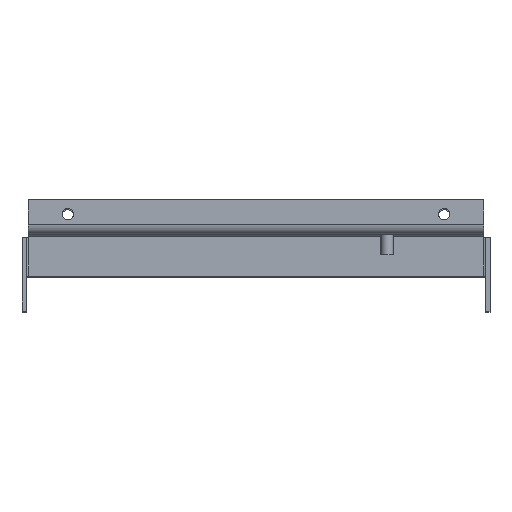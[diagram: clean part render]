
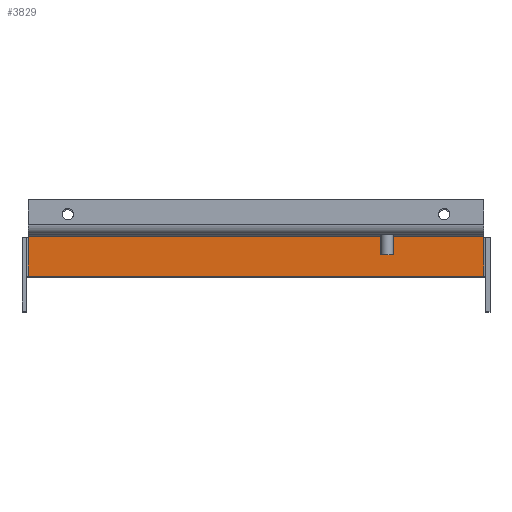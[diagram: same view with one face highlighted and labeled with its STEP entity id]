
A CAD part, top view. The second image highlights one B-rep face of the part: STEP entity #3829.
In plain terms, the highlighted planar face has unit normal (0, 0, 1).
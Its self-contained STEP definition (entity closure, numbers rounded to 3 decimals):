
#1152=DIRECTION('',(0.,1.,0.));
#1153=VECTOR('',#1152,0.5);
#1154=CARTESIAN_POINT('',(224.,35.5,353.));
#1155=LINE('',#1154,#1153);
#1168=DIRECTION('',(-1.,0.,0.));
#1169=VECTOR('',#1168,221.);
#1170=CARTESIAN_POINT('',(224.,17.,353.));
#1171=LINE('',#1170,#1169);
#1172=DIRECTION('',(0.,1.,0.));
#1173=VECTOR('',#1172,0.5);
#1174=CARTESIAN_POINT('',(3.,35.5,353.));
#1175=LINE('',#1174,#1173);
#1180=DIRECTION('',(0.,-1.,0.));
#1181=VECTOR('',#1180,18.5);
#1182=CARTESIAN_POINT('',(3.,35.5,353.));
#1183=LINE('',#1182,#1181);
#1312=DIRECTION('',(-1.,0.,0.));
#1313=VECTOR('',#1312,221.);
#1314=CARTESIAN_POINT('',(224.,36.,353.));
#1315=LINE('',#1314,#1313);
#1484=DIRECTION('',(0.,1.,0.));
#1485=VECTOR('',#1484,18.5);
#1486=CARTESIAN_POINT('',(224.,17.,353.));
#1487=LINE('',#1486,#1485);
#1903=CARTESIAN_POINT('',(3.,17.,353.));
#1905=VERTEX_POINT('',#1903);
#1908=CARTESIAN_POINT('',(3.,35.5,353.));
#1909=VERTEX_POINT('',#1908);
#1914=CARTESIAN_POINT('',(224.,17.,353.));
#1915=VERTEX_POINT('',#1914);
#1918=CARTESIAN_POINT('',(3.,36.,353.));
#1919=VERTEX_POINT('',#1918);
#1920=CARTESIAN_POINT('',(224.,36.,353.));
#1921=VERTEX_POINT('',#1920);
#1922=CARTESIAN_POINT('',(224.,35.5,353.));
#1923=VERTEX_POINT('',#1922);
#3812=CARTESIAN_POINT('',(224.,35.5,353.));
#3813=DIRECTION('',(0.,0.,-1.));
#3814=DIRECTION('',(-1.,0.,0.));
#3815=AXIS2_PLACEMENT_3D('',#3812,#3813,#3814);
#3816=PLANE('',#3815);
#3817=ORIENTED_EDGE('',*,*,#3802,.T.);
#3819=ORIENTED_EDGE('',*,*,#3818,.F.);
#3821=ORIENTED_EDGE('',*,*,#3820,.T.);
#3823=ORIENTED_EDGE('',*,*,#3822,.F.);
#3824=ORIENTED_EDGE('',*,*,#3773,.F.);
#3826=ORIENTED_EDGE('',*,*,#3825,.F.);
#3827=EDGE_LOOP('',(#3817,#3819,#3821,#3823,#3824,#3826));
#3828=FACE_OUTER_BOUND('',#3827,.F.);
#3773=EDGE_CURVE('',#1923,#1921,#1155,.T.);
#3802=EDGE_CURVE('',#1915,#1905,#1171,.T.);
#3818=EDGE_CURVE('',#1909,#1905,#1183,.T.);
#3820=EDGE_CURVE('',#1909,#1919,#1175,.T.);
#3822=EDGE_CURVE('',#1921,#1919,#1315,.T.);
#3825=EDGE_CURVE('',#1915,#1923,#1487,.T.);
#3829=ADVANCED_FACE('',(#3828),#3816,.F.);
